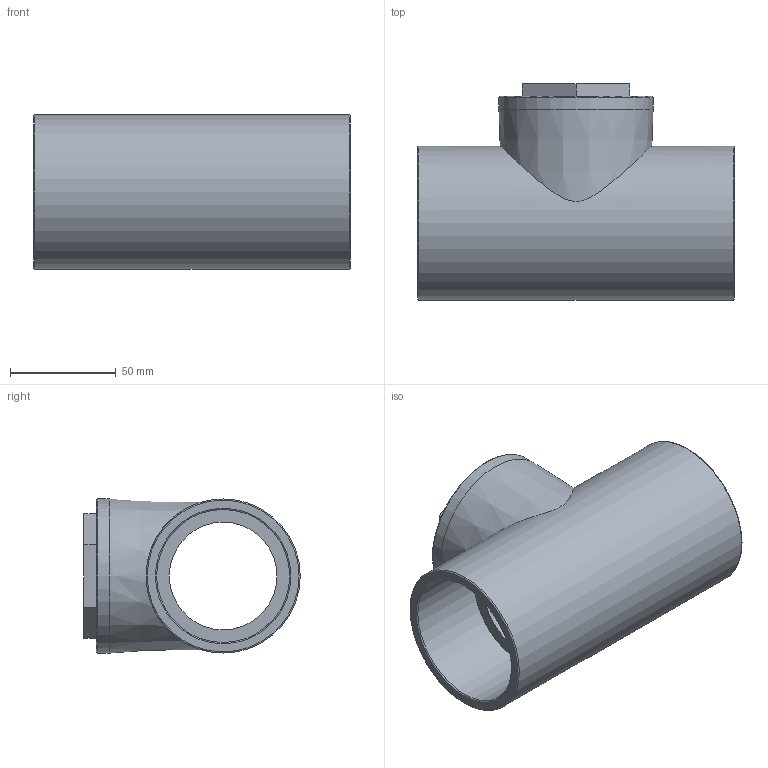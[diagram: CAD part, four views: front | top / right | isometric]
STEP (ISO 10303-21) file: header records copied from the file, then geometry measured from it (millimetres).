
FILE_DESCRIPTION(/* description */ ('PLASSON CHECK VALVE T-CLAPPERALVE-CEMENT 63'),/* implementation_level */ '2;1');
FILE_NAME(/* name */ 'C:\Dropbox\KIMPROJECTS-Inventor\99-16-3568-Processing\PVC Catalog 2017\050408\050408063.ipt.stp',/* time_stamp */ '2017-12-07T15:55:26+02:00',/* author */ ('KIM'),/* organization */ (''),/* preprocessor_version */ 'ST-DEVELOPER v15.6',/* originating_system */ 'Autodesk Inventor 2015',/* authorisation */ '');
FILE_SCHEMA (('AUTOMOTIVE_DESIGN { 1 0 10303 214 3 1 1 }'));
Length unit declared in the file: millimetre
Products named in the file (1): 050408063
Bounding box: 150 x 102.5 x 73 mm (x, y, z)
Volume: 370984.1 mm3; surface area: 73691.7 mm2
Topology: 1 solids, 1 shells, 23 faces, 48 edges, 30 vertices
Faces by surface type: plane 12, cylinder 5, torus 5, cone 1
Full cylindrical faces by diameter (mm): 50.99 x1, 63 x2, 73 x2
Entity records: 638 total; most frequent: CARTESIAN_POINT 167, DIRECTION 96, ORIENTED_EDGE 68, EDGE_LOOP 40, AXIS2_PLACEMENT_3D 39, EDGE_CURVE 34, VERTEX_POINT 28, FACE_OUTER_BOUND 23
